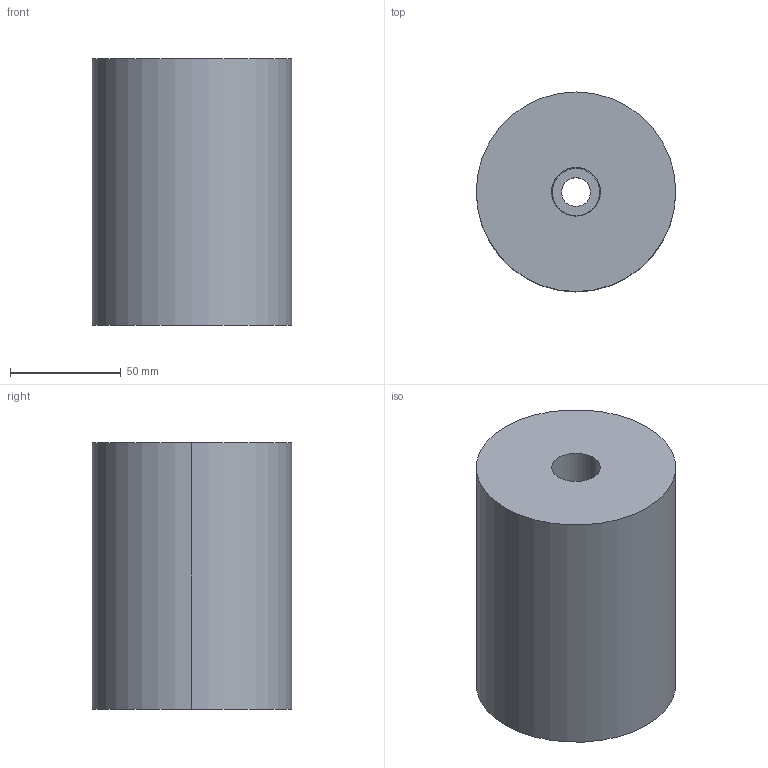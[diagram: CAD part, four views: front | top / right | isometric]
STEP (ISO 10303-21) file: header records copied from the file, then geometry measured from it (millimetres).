
FILE_DESCRIPTION(/* description */ (''),/* implementation_level */ '2;1');
FILE_NAME(/* name */ '3d_est90-120_07034_r00.stp',/* time_stamp */ '2011-01-10T14:15:39+09:00',/* author */ ('MISUMI'),/* organization */ (''),/* preprocessor_version */ 'ST-DEVELOPER v11',/* originating_system */ 'UGS - NX 5.0',/* authorisation */ '');
FILE_SCHEMA (('CONFIG_CONTROL_DESIGN'));
Length unit declared in the file: millimetre
Products named in the file (1): 3d_est90-120_07034_r00
Bounding box: 90 x 90 x 120 mm (x, y, z)
Volume: 728699.3 mm3; surface area: 58889 mm2
Topology: 2 solids, 2 shells, 19 faces, 38 edges, 24 vertices
Faces by surface type: cylinder 10, plane 5, cone 4
Entity records: 596 total; most frequent: DIRECTION 102, CARTESIAN_POINT 82, ORIENTED_EDGE 76, AXIS2_PLACEMENT_3D 44, EDGE_CURVE 38, EDGE_LOOP 24, VERTEX_POINT 24, CIRCLE 24
